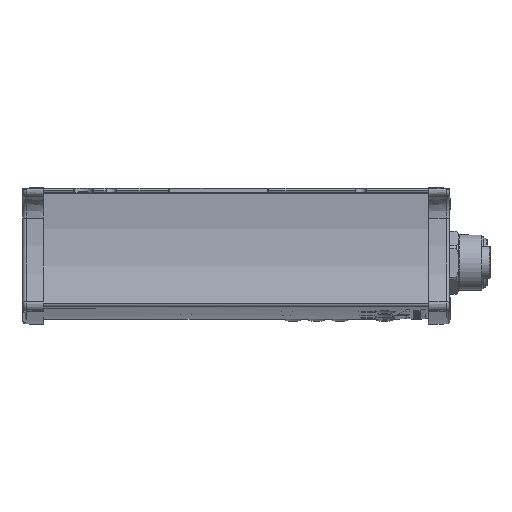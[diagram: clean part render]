
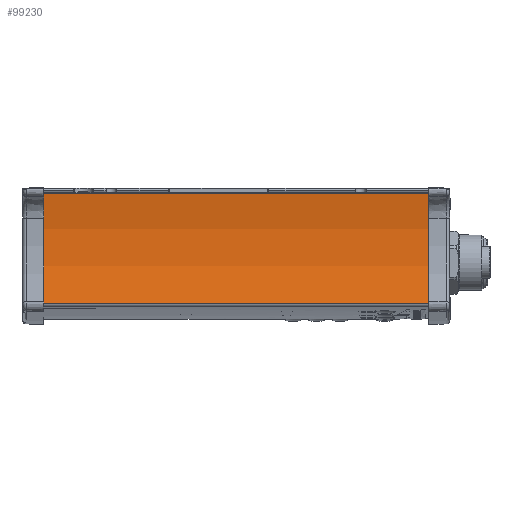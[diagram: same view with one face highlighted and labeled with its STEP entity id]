
A CAD part, left-side view. The second image highlights one B-rep face of the part: STEP entity #99230.
In plain terms, the highlighted cylindrical face has radius 109.9 mm (diameter 219.8 mm), a partial arc.
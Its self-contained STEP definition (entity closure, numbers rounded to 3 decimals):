
#330 = CARTESIAN_POINT ( 'NONE',  ( -187.95, -175., -20.3 ) ) ;
#612 = CARTESIAN_POINT ( 'NONE',  ( -81.929, -1., -49.24 ) ) ;
#2543 = LINE ( 'NONE', #68244, #26998 ) ;
#10184 = AXIS2_PLACEMENT_3D ( 'NONE', #119670, #83904, #61497 ) ;
#10303 = EDGE_CURVE ( 'NONE', #146586, #132363, #2543, .T. ) ;
#10363 = EDGE_CURVE ( 'NONE', #134111, #146586, #46013, .T. ) ;
#14528 = EDGE_CURVE ( 'NONE', #89598, #132363, #128728, .T. ) ;
#15477 = EDGE_CURVE ( 'NONE', #134111, #89598, #25621, .T. ) ;
#19744 = ORIENTED_EDGE ( 'NONE', *, *, #14528, .T. ) ;
#25616 = DIRECTION ( 'NONE',  ( 0., 1., 0. ) ) ;
#25621 = LINE ( 'NONE', #117403, #26700 ) ;
#26700 = VECTOR ( 'NONE', #36765, 1000. ) ;
#26998 = VECTOR ( 'NONE', #127099, 1000. ) ;
#30136 = DIRECTION ( 'NONE',  ( 0., 1., 0. ) ) ;
#30850 = DIRECTION ( 'NONE',  ( 0., 0., 1. ) ) ;
#36162 = ORIENTED_EDGE ( 'NONE', *, *, #15477, .T. ) ;
#36765 = DIRECTION ( 'NONE',  ( 0., 1., 0. ) ) ;
#46013 = CIRCLE ( 'NONE', #129459, 109.9 ) ;
#54346 = CARTESIAN_POINT ( 'NONE',  ( -79.662, -175., -1.548 ) ) ;
#56632 = CARTESIAN_POINT ( 'NONE',  ( -79.662, -1., -1.548 ) ) ;
#57048 = FACE_OUTER_BOUND ( 'NONE', #92863, .T. ) ;
#61497 = DIRECTION ( 'NONE',  ( 0., 0., -1. ) ) ;
#68244 = CARTESIAN_POINT ( 'NONE',  ( -81.929, -175., -49.24 ) ) ;
#70469 = CYLINDRICAL_SURFACE ( 'NONE', #10184, 109.9 ) ;
#83904 = DIRECTION ( 'NONE',  ( 0., 1., 0. ) ) ;
#89093 = CARTESIAN_POINT ( 'NONE',  ( -187.95, -1., -20.3 ) ) ;
#89598 = VERTEX_POINT ( 'NONE', #56632 ) ;
#92863 = EDGE_LOOP ( 'NONE', ( #19744, #93108, #119191, #36162 ) ) ;
#93108 = ORIENTED_EDGE ( 'NONE', *, *, #10303, .F. ) ;
#99230 = ADVANCED_FACE ( 'NONE', ( #57048 ), #70469, .F. ) ;
#117403 = CARTESIAN_POINT ( 'NONE',  ( -79.662, -175., -1.548 ) ) ;
#119191 = ORIENTED_EDGE ( 'NONE', *, *, #10363, .F. ) ;
#119670 = CARTESIAN_POINT ( 'NONE',  ( -187.95, -175., -20.3 ) ) ;
#126363 = DIRECTION ( 'NONE',  ( 0., 0., 1. ) ) ;
#126377 = AXIS2_PLACEMENT_3D ( 'NONE', #89093, #30136, #30850 ) ;
#127099 = DIRECTION ( 'NONE',  ( 0., 1., 0. ) ) ;
#128728 = CIRCLE ( 'NONE', #126377, 109.9 ) ;
#129459 = AXIS2_PLACEMENT_3D ( 'NONE', #330, #25616, #126363 ) ;
#132363 = VERTEX_POINT ( 'NONE', #612 ) ;
#134111 = VERTEX_POINT ( 'NONE', #54346 ) ;
#139666 = CARTESIAN_POINT ( 'NONE',  ( -81.929, -175., -49.24 ) ) ;
#146586 = VERTEX_POINT ( 'NONE', #139666 ) ;
